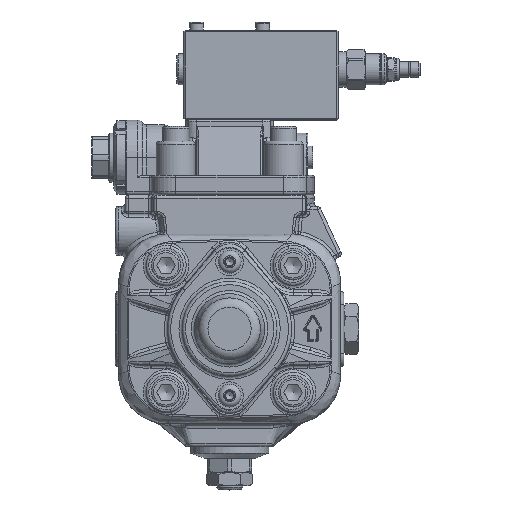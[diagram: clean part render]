
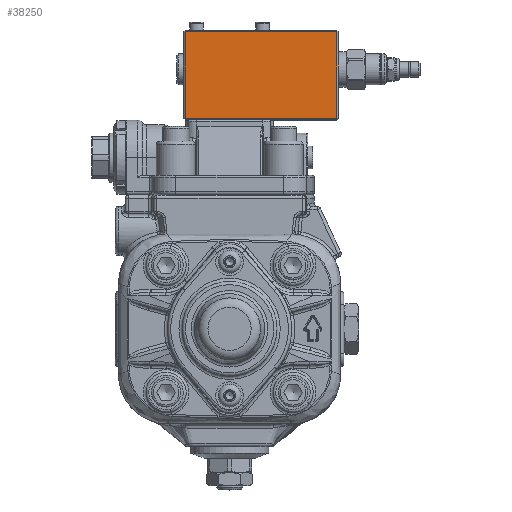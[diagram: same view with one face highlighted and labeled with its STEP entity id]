
A CAD part, top view. The second image highlights one B-rep face of the part: STEP entity #38250.
In plain terms, the highlighted planar face has unit normal (0, 0, 1).
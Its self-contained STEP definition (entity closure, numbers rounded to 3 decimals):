
#4663=FACE_OUTER_BOUND('',#6993,.T.);
#6993=EDGE_LOOP('',(#24834,#24835,#24836,#24837));
#10311=LINE('',#57448,#12353);
#10313=LINE('',#57452,#12355);
#10316=LINE('',#57456,#12358);
#10322=LINE('',#57467,#12364);
#12353=VECTOR('',#45911,10.);
#12355=VECTOR('',#45917,10.);
#12358=VECTOR('',#45922,10.);
#12364=VECTOR('',#45938,10.);
#14625=VERTEX_POINT('',#57420);
#14626=VERTEX_POINT('',#57424);
#14631=VERTEX_POINT('',#57438);
#14633=VERTEX_POINT('',#57443);
#18417=EDGE_CURVE('',#14633,#14631,#10311,.T.);
#18419=EDGE_CURVE('',#14626,#14633,#10313,.T.);
#18422=EDGE_CURVE('',#14631,#14625,#10316,.T.);
#18428=EDGE_CURVE('',#14625,#14626,#10322,.T.);
#24834=ORIENTED_EDGE('',*,*,#18417,.F.);
#24835=ORIENTED_EDGE('',*,*,#18419,.F.);
#24836=ORIENTED_EDGE('',*,*,#18428,.F.);
#24837=ORIENTED_EDGE('',*,*,#18422,.F.);
#35023=PLANE('',#40874);
#38250=ADVANCED_FACE('',(#4663),#35023,.T.);
#40874=AXIS2_PLACEMENT_3D('',#57477,#45951,#45952);
#45911=DIRECTION('',(1.,0.,0.));
#45917=DIRECTION('',(0.,1.,0.));
#45922=DIRECTION('',(0.,-1.,0.));
#45938=DIRECTION('',(-1.,0.,0.));
#45951=DIRECTION('center_axis',(0.,0.,
1.));
#45952=DIRECTION('ref_axis',(0.,1.,0.));
#57420=CARTESIAN_POINT('',(59.21,116.996,41.252));
#57424=CARTESIAN_POINT('',(-33.79,116.996,41.252));
#57438=CARTESIAN_POINT('',(59.21,169.996,41.252));
#57443=CARTESIAN_POINT('',(-33.79,169.996,41.252));
#57448=CARTESIAN_POINT('',(-11.04,169.996,41.252));
#57452=CARTESIAN_POINT('',(-33.79,170.996,41.252));
#57456=CARTESIAN_POINT('',(59.21,170.996,41.252));
#57467=CARTESIAN_POINT('',(-11.04,116.996,41.252));
#57477=CARTESIAN_POINT('Origin',(-34.79,170.996,41.252));
